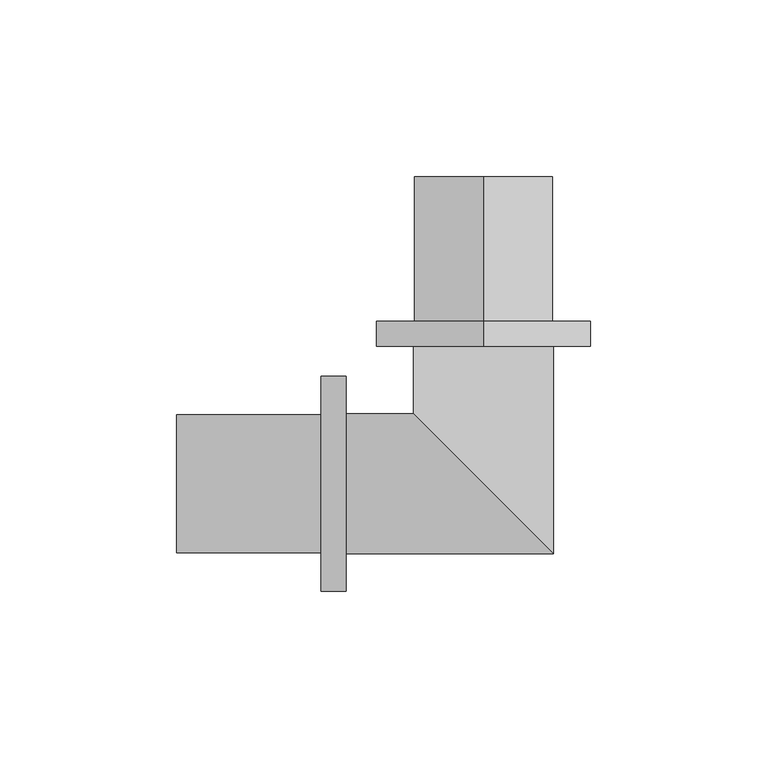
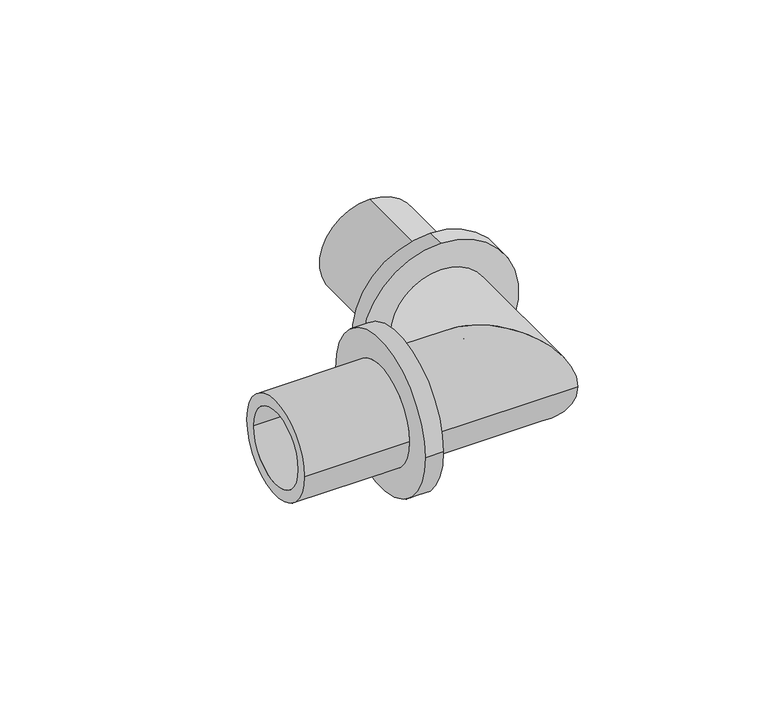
"""IFC4 building model written with IfcOpenShell, lengths in millimetres: pipe fitting geometry, RAUTITAN_Corner_LX : RTI LX C DN."""

from ifc_helpers import new_model, si_unit, frame, origin, place, context, project, spatial, polyline, circle_curve, ellipse_curve, source, transform, mapped, element, save
from ifc_brep_helpers import plane_surface, cylinder_surface, revolved_surface, advanced_brep


def pipe_fitting_82a748e2(model_context):
    return source(origin(), model_context, "Body", "AdvancedBrep", [
        advanced_brep(
        [(0.0, 46.0, 30.5), (0.0, 46.0, -30.5), (0.0, 39.0, -30.5), (0.0, 39.0, 30.5), (0.0, 87.0, 19.6), (0.0, 87.0, -19.6), (0.0, 46.0, -19.6), (0.0, 46.0, 19.6), (0.0, 39.0, 15.0), (0.0, 39.0, -15.0), (0.0, 87.0, -15.0), (0.0, 87.0, 15.0)],
        [
            (0, 1, circle_curve(frame((0.0, 46.0, 0.0), z_axis=(0.0, -1.0, 0.0), x_axis=(0.0, 0.0, -1.0)), 30.5)),
            (1, 2),
            (2, 3, circle_curve(frame((0.0, 39.0, 0.0), z_axis=(0.0, 1.0, 0.0), x_axis=(0.0, 0.0, -1.0)), 30.5)),
            (3, 0),
            (4, 5, circle_curve(frame((0.0, 87.0, 0.0), z_axis=(0.0, -1.0, 0.0), x_axis=(0.0, 0.0, -1.0)), 19.6)),
            (5, 6),
            (6, 7, circle_curve(frame((0.0, 46.0, 0.0), z_axis=(0.0, 1.0, 0.0), x_axis=(0.0, 0.0, -1.0)), 19.6)),
            (7, 4),
            (8, 9, circle_curve(frame((0.0, 39.0, 0.0), z_axis=(0.0, -1.0, 0.0), x_axis=(0.0, 0.0, -1.0)), 15.0)),
            (9, 10),
            (10, 11, circle_curve(frame((0.0, 87.0, 0.0), z_axis=(0.0, 1.0, 0.0), x_axis=(0.0, 0.0, -1.0)), 15.0)),
            (11, 8),
            (1, 0, circle_curve(frame((0.0, 46.0, 0.0), z_axis=(0.0, -1.0, 0.0), x_axis=(0.0, 0.0, 1.0)), 30.5)),
            (3, 2, circle_curve(frame((0.0, 39.0, 0.0), z_axis=(0.0, 1.0, 0.0), x_axis=(0.0, 0.0, 1.0)), 30.5)),
            (6, 7, circle_curve(frame((0.0, 46.0, 0.0), z_axis=(0.0, -1.0, 0.0), x_axis=(0.0, 0.0, 1.0)), 19.6)),
            (5, 4, circle_curve(frame((0.0, 87.0, 0.0), z_axis=(0.0, -1.0, 0.0), x_axis=(0.0, 0.0, 1.0)), 19.6)),
            (10, 11, circle_curve(frame((0.0, 87.0, 0.0), z_axis=(0.0, -1.0, 0.0), x_axis=(0.0, 0.0, 1.0)), 15.0)),
            (9, 8, circle_curve(frame((0.0, 39.0, 0.0), z_axis=(0.0, -1.0, 0.0), x_axis=(0.0, 0.0, 1.0)), 15.0)),
        ],
        [
            cylinder_surface(frame((0.0, 39.0, 0.0), z_axis=(0.0, 1.0, 0.0), x_axis=(0.0, 0.0, -1.0)), 30.5),
            cylinder_surface(frame((0.0, 39.0, 0.0), z_axis=(0.0, 1.0, 0.0), x_axis=(0.0, 0.0, -1.0)), 19.6),
            revolved_surface(polyline([(0.0, 87.0, -15.0), (0.0, 39.0, -15.0)]), (0.0, 39.0, 0.0), (0.0, 1.0, 0.0)),
            cylinder_surface(frame((0.0, 39.0, 0.0), z_axis=(0.0, 1.0, 0.0), x_axis=(0.0, 0.0, 1.0)), 30.5),
            plane_surface(frame((0.0, 46.0, 0.0), z_axis=(0.0, 1.0, 0.0), x_axis=(0.0, 0.0, 1.0))),
            cylinder_surface(frame((0.0, 39.0, 0.0), z_axis=(0.0, 1.0, 0.0), x_axis=(0.0, 0.0, 1.0)), 19.6),
            plane_surface(frame((0.0, 87.0, 0.0), z_axis=(0.0, 1.0, 0.0), x_axis=(0.0, 0.0, 1.0))),
            revolved_surface(polyline([(0.0, 87.0, 15.0), (0.0, 39.0, 15.0)]), (0.0, 39.0, 0.0), (0.0, 1.0, 0.0)),
            plane_surface(frame((0.0, 39.0, 0.0), z_axis=(0.0, -1.0, 0.0), x_axis=(0.0, 0.0, 1.0))),
        ],
        [
            (0, [[1, 2, 3, 4]]),
            (1, [[5, 6, 7, 8]]),
            (2, [[9, 10, 11, 12]]),
            (3, [[13, -4, 14, -2]]),
            (4, [[-13, -1], [15, -7]]),
            (5, [[16, -8, -15, -6]]),
            (6, [[-16, -5], [17, -11]]),
            (7, [[18, -12, -17, -10]]),
            (8, [[-14, -3], [-18, -9]]),
        ],
    ),
        advanced_brep(
        [(-46.0, -30.5, 0.0), (-46.0, 30.5, 0.0), (-39.0, 30.5, 0.0), (-39.0, -30.5, 0.0), (-87.0, -19.6, 0.0), (-87.0, 19.6, 0.0), (-46.0, 19.6, 0.0), (-46.0, -19.6, 0.0), (-39.0, -15.0, 0.0), (-39.0, 15.0, 0.0), (-87.0, 15.0, 0.0), (-87.0, -15.0, 0.0)],
        [
            (0, 1, circle_curve(frame((-46.0, 0.0, 0.0), z_axis=(1.0, 0.0, 0.0), x_axis=(0.0, 1.0, 0.0)), 30.5)),
            (1, 2),
            (2, 3, circle_curve(frame((-39.0, 0.0, 0.0), z_axis=(-1.0, 0.0, 0.0), x_axis=(0.0, 1.0, 0.0)), 30.5)),
            (3, 0),
            (4, 5, circle_curve(frame((-87.0, 0.0, 0.0), z_axis=(1.0, 0.0, 0.0), x_axis=(0.0, 1.0, 0.0)), 19.6)),
            (5, 6),
            (6, 7, circle_curve(frame((-46.0, 0.0, 0.0), z_axis=(-1.0, 0.0, 0.0), x_axis=(0.0, 1.0, 0.0)), 19.6)),
            (7, 4),
            (8, 9, circle_curve(frame((-39.0, 0.0, 0.0), z_axis=(1.0, 0.0, 0.0), x_axis=(0.0, 1.0, 0.0)), 15.0)),
            (9, 10),
            (10, 11, circle_curve(frame((-87.0, 0.0, 0.0), z_axis=(-1.0, 0.0, 0.0), x_axis=(0.0, 1.0, 0.0)), 15.0)),
            (11, 8),
            (1, 0, circle_curve(frame((-46.0, 0.0, 0.0), z_axis=(1.0, 0.0, 0.0), x_axis=(0.0, -1.0, 0.0)), 30.5)),
            (3, 2, circle_curve(frame((-39.0, 0.0, 0.0), z_axis=(-1.0, 0.0, 0.0), x_axis=(0.0, -1.0, 0.0)), 30.5)),
            (6, 7, circle_curve(frame((-46.0, 0.0, 0.0), z_axis=(1.0, 0.0, 0.0), x_axis=(0.0, -1.0, 0.0)), 19.6)),
            (5, 4, circle_curve(frame((-87.0, 0.0, 0.0), z_axis=(1.0, 0.0, 0.0), x_axis=(0.0, -1.0, 0.0)), 19.6)),
            (10, 11, circle_curve(frame((-87.0, 0.0, 0.0), z_axis=(1.0, 0.0, 0.0), x_axis=(0.0, -1.0, 0.0)), 15.0)),
            (9, 8, circle_curve(frame((-39.0, 0.0, 0.0), z_axis=(1.0, 0.0, 0.0), x_axis=(0.0, -1.0, 0.0)), 15.0)),
        ],
        [
            cylinder_surface(frame((-39.0, 0.0, 0.0), z_axis=(-1.0, 0.0, 0.0), x_axis=(0.0, 1.0, 0.0)), 30.5),
            cylinder_surface(frame((-39.0, 0.0, 0.0), z_axis=(-1.0, 0.0, 0.0), x_axis=(0.0, 1.0, 0.0)), 19.6),
            revolved_surface(polyline([(-87.0, 15.0, 0.0), (-39.0, 15.0, 0.0)]), (-39.0, 0.0, 0.0), (-1.0, 0.0, 0.0)),
            cylinder_surface(frame((-39.0, 0.0, 0.0), z_axis=(-1.0, 0.0, 0.0), x_axis=(0.0, -1.0, 0.0)), 30.5),
            plane_surface(frame((-46.0, 0.0, 0.0), z_axis=(-1.0, 0.0, 0.0), x_axis=(0.0, -1.0, 0.0))),
            cylinder_surface(frame((-39.0, 0.0, 0.0), z_axis=(-1.0, 0.0, 0.0), x_axis=(0.0, -1.0, 0.0)), 19.6),
            plane_surface(frame((-87.0, 0.0, 0.0), z_axis=(-1.0, 0.0, 0.0), x_axis=(0.0, -1.0, 0.0))),
            revolved_surface(polyline([(-87.0, -15.0, 0.0), (-39.0, -15.0, 0.0)]), (-39.0, 0.0, 0.0), (-1.0, 0.0, 0.0)),
            plane_surface(frame((-39.0, 0.0, 0.0), z_axis=(1.0, 0.0, 0.0), x_axis=(0.0, -1.0, 0.0))),
        ],
        [
            (0, [[1, 2, 3, 4]]),
            (1, [[5, 6, 7, 8]]),
            (2, [[9, 10, 11, 12]]),
            (3, [[13, -4, 14, -2]]),
            (4, [[-13, -1], [15, -7]]),
            (5, [[16, -8, -15, -6]]),
            (6, [[-16, -5], [17, -11]]),
            (7, [[18, -12, -17, -10]]),
            (8, [[-14, -3], [-18, -9]]),
        ],
    ),
        advanced_brep(
        [(-39.0, -19.8, 0.0), (-39.0, 19.8, 0.0), (-39.0, -15.0, 0.0), (-39.0, 15.0, 0.0), (-15.0, 15.0, 0.0), (15.0, -15.0, 0.0), (19.8, 39.0, 0.0), (-19.8, 39.0, 0.0), (15.0, 39.0, 0.0), (-15.0, 39.0, 0.0), (19.8, -19.8, 0.0), (-19.8, 19.8, 0.0)],
        [
            (0, 1, circle_curve(frame((-39.0, 0.0, 0.0), z_axis=(-1.0, 0.0, 0.0), x_axis=(0.0, 1.0, 0.0)), 19.8)),
            (1, 0, circle_curve(frame((-39.0, 0.0, 0.0), z_axis=(-1.0, 0.0, 0.0), x_axis=(0.0, 1.0, 0.0)), 19.8)),
            (2, 3, circle_curve(frame((-39.0, 0.0, 0.0), z_axis=(1.0, 0.0, 0.0), x_axis=(0.0, 1.0, 0.0)), 15.0)),
            (3, 2, circle_curve(frame((-39.0, 0.0, 0.0), z_axis=(1.0, 0.0, 0.0), x_axis=(0.0, 1.0, 0.0)), 15.0)),
            (3, 4),
            (4, 5, ellipse_curve(frame((0.0, 0.0, 0.0), z_axis=(0.7071067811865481, 0.7071067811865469, 0.0), x_axis=(0.7071067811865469, -0.7071067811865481, 0.0)), 21.2132034, 15.0)),
            (5, 2),
            (5, 4, ellipse_curve(frame((0.0, 0.0, 0.0), z_axis=(0.7071067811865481, 0.7071067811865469, 0.0), x_axis=(0.7071067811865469, -0.7071067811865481, 0.0)), 21.2132034, 15.0)),
            (6, 7, circle_curve(frame((0.0, 39.0, 0.0), z_axis=(0.0, 1.0, 0.0), x_axis=(-1.0, 0.0, 0.0)), 19.8)),
            (7, 6, circle_curve(frame((0.0, 39.0, 0.0), z_axis=(0.0, 1.0, 0.0), x_axis=(-1.0, 0.0, 0.0)), 19.8)),
            (8, 9, circle_curve(frame((0.0, 39.0, 0.0), z_axis=(0.0, -1.0, 0.0), x_axis=(-1.0, 0.0, 0.0)), 15.0)),
            (9, 8, circle_curve(frame((0.0, 39.0, 0.0), z_axis=(0.0, -1.0, 0.0), x_axis=(-1.0, 0.0, 0.0)), 15.0)),
            (4, 9),
            (8, 5),
            (0, 10),
            (10, 11, ellipse_curve(frame((0.0, 0.0, 0.0), z_axis=(-0.7071067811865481, -0.7071067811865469, 0.0), x_axis=(-0.7071067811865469, 0.7071067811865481, 0.0)), 28.0014285, 19.8)),
            (11, 1),
            (11, 10, ellipse_curve(frame((0.0, 0.0, 0.0), z_axis=(-0.7071067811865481, -0.7071067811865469, 0.0), x_axis=(-0.7071067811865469, 0.7071067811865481, 0.0)), 28.0014285, 19.8)),
            (10, 6),
            (7, 11),
        ],
        [
            plane_surface(frame((-39.0, 0.0, 0.0), z_axis=(-1.0, 0.0, 0.0), x_axis=(0.0, 0.0, 1.0))),
            revolved_surface(polyline([(15.0, 15.0, 0.0), (-39.0, 15.0, 0.0)]), (-39.0, 0.0, 0.0), (1.0, 0.0, 0.0)),
            plane_surface(frame((0.0, 39.0, 0.0), z_axis=(0.0, 1.0, 0.0), x_axis=(0.0, 0.0, 1.0))),
            revolved_surface(polyline([(-15.0, 39.0, 0.0), (-15.0, -15.0, 0.0)]), (0.0, 0.0, 0.0), (0.0, 1.0, 0.0)),
            cylinder_surface(frame((-39.0, 0.0, 0.0), z_axis=(-1.0, 0.0, 0.0), x_axis=(0.0, 1.0, 0.0)), 19.8),
            cylinder_surface(frame((0.0, 0.0, 0.0), z_axis=(0.0, -1.0, 0.0), x_axis=(-1.0, 0.0, 0.0)), 19.8),
        ],
        [
            (0, [[1, 2], [3, 4]]),
            (1, [[-4, 5, 6, 7]]),
            (1, [[-3, -7, 8, -5]]),
            (2, [[9, 10], [11, 12]]),
            (3, [[-6, 13, -11, 14]]),
            (3, [[-8, -14, -12, -13]]),
            (4, [[-1, 15, 16, 17]]),
            (4, [[-2, -17, 18, -15]]),
            (5, [[-16, 19, -10, 20]]),
            (5, [[-18, -20, -9, -19]]),
        ],
    ),
    ])


if __name__ == "__main__":
    model = new_model("IFC4")
    model_context = context("Model", 3, world=origin())
    ifc_project = project(units=[si_unit("LENGTHUNIT", "METRE", prefix="MILLI")], contexts=[model_context])
    site = spatial("IfcSite", under=ifc_project)
    building = spatial("IfcBuilding", under=site)
    placement = place(None, origin())
    pipe_fitting_shape = pipe_fitting_82a748e2(model_context)
    element("IfcPipeFitting", 1, ObjectType="RAUTITAN_Corner_LX : RTI LX C DN", at=placement, inside=building, context=model_context, shape_type="MappedRepresentation", body=[
        mapped(pipe_fitting_shape, transform((0.0, 0.0, 0.0), x_axis=(1.0, 0.0, 0.0), y_axis=(0.0, 1.0, 0.0), z_axis=(0.0, 0.0, 1.0))),
    ])
    save(model, "model.ifc")
